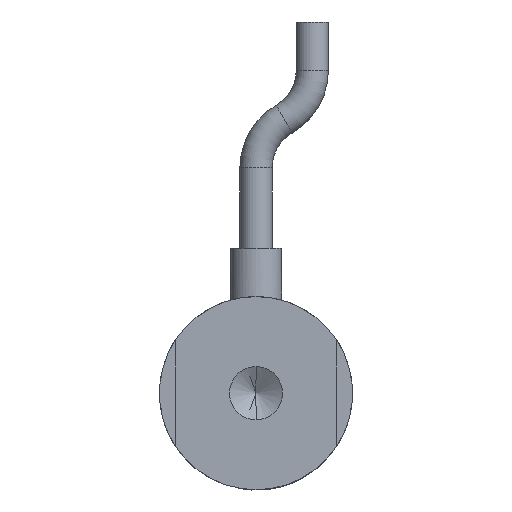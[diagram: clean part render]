
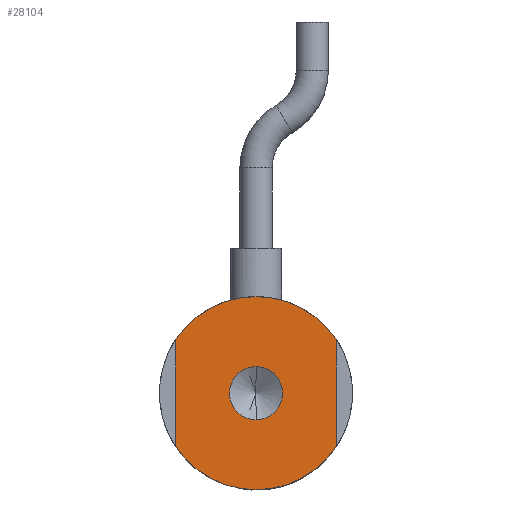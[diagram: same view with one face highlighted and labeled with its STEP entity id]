
A CAD part, front view. The second image highlights one B-rep face of the part: STEP entity #28104.
In plain terms, the highlighted planar face has unit normal (0, -1, 0).
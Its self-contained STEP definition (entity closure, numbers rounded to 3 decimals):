
#477 = VERTEX_POINT ( 'NONE', #36126 ) ;
#479 = LINE ( 'NONE', #9758, #35111 ) ;
#913 = EDGE_CURVE ( 'NONE', #36495, #1492, #2704, .T. ) ;
#1239 = ORIENTED_EDGE ( 'NONE', *, *, #25971, .F. ) ;
#1276 = DIRECTION ( 'NONE',  ( 0., 0., 1. ) ) ;
#1349 = AXIS2_PLACEMENT_3D ( 'NONE', #1442, #24998, #4890 ) ;
#1407 = CIRCLE ( 'NONE', #6826, 6. ) ;
#1442 = CARTESIAN_POINT ( 'NONE',  ( 0., 0., 0. ) ) ;
#1492 = VERTEX_POINT ( 'NONE', #41804 ) ;
#2704 = CIRCLE ( 'NONE', #8167, 1.65 ) ;
#2921 = CARTESIAN_POINT ( 'NONE',  ( 0., 0., 0. ) ) ;
#3513 = VERTEX_POINT ( 'NONE', #6872 ) ;
#4890 = DIRECTION ( 'NONE',  ( 0., 0., 1. ) ) ;
#5021 = DIRECTION ( 'NONE',  ( 0., 0., -1. ) ) ;
#5074 = DIRECTION ( 'NONE',  ( 0., -1., 0. ) ) ;
#5121 = CARTESIAN_POINT ( 'NONE',  ( 0., 0., 0. ) ) ;
#5241 = AXIS2_PLACEMENT_3D ( 'NONE', #41371, #21481, #1276 ) ;
#6044 = DIRECTION ( 'NONE',  ( 0., 0., 1. ) ) ;
#6336 = DIRECTION ( 'NONE',  ( 0., 0., -1. ) ) ;
#6826 = AXIS2_PLACEMENT_3D ( 'NONE', #17463, #40714, #20820 ) ;
#6872 = CARTESIAN_POINT ( 'NONE',  ( 0., 0., -6. ) ) ;
#8167 = AXIS2_PLACEMENT_3D ( 'NONE', #5121, #5074, #5021 ) ;
#9574 = LINE ( 'NONE', #26310, #18500 ) ;
#9639 = CIRCLE ( 'NONE', #43063, 6. ) ;
#9758 = CARTESIAN_POINT ( 'NONE',  ( 5., 0., 0. ) ) ;
#12418 = CARTESIAN_POINT ( 'NONE',  ( 0., 0., 6. ) ) ;
#13171 = DIRECTION ( 'NONE',  ( 0., 0., -1. ) ) ;
#13683 = AXIS2_PLACEMENT_3D ( 'NONE', #2921, #26447, #6336 ) ;
#14329 = CIRCLE ( 'NONE', #1349, 6. ) ;
#15969 = CARTESIAN_POINT ( 'NONE',  ( 0., 0., 0. ) ) ;
#16978 = CIRCLE ( 'NONE', #5241, 6. ) ;
#17234 = VERTEX_POINT ( 'NONE', #17997 ) ;
#17249 = CARTESIAN_POINT ( 'NONE',  ( 0., 0., 1.65 ) ) ;
#17463 = CARTESIAN_POINT ( 'NONE',  ( 0., 0., 0. ) ) ;
#17997 = CARTESIAN_POINT ( 'NONE',  ( -5., 0., -3.317 ) ) ;
#18500 = VECTOR ( 'NONE', #6044, 1000. ) ;
#18873 = EDGE_CURVE ( 'NONE', #1492, #36495, #24256, .T. ) ;
#19349 = DIRECTION ( 'NONE',  ( 0., 0., 1. ) ) ;
#20613 = CARTESIAN_POINT ( 'NONE',  ( -5., 0., 3.317 ) ) ;
#20820 = DIRECTION ( 'NONE',  ( 0., 0., 1. ) ) ;
#21481 = DIRECTION ( 'NONE',  ( 0., 1., 0. ) ) ;
#21585 = EDGE_CURVE ( 'NONE', #29154, #477, #16978, .T. ) ;
#22827 = EDGE_CURVE ( 'NONE', #23107, #3513, #14329, .T. ) ;
#22856 = AXIS2_PLACEMENT_3D ( 'NONE', #29851, #43276, #23410 ) ;
#23107 = VERTEX_POINT ( 'NONE', #43254 ) ;
#23410 = DIRECTION ( 'NONE',  ( 0., 0., 1. ) ) ;
#24065 = EDGE_CURVE ( 'NONE', #3513, #17234, #9639, .T. ) ;
#24256 = CIRCLE ( 'NONE', #13683, 1.65 ) ;
#24998 = DIRECTION ( 'NONE',  ( 0., 1., 0. ) ) ;
#25311 = FACE_OUTER_BOUND ( 'NONE', #30029, .T. ) ;
#25971 = EDGE_CURVE ( 'NONE', #36506, #29154, #1407, .T. ) ;
#26310 = CARTESIAN_POINT ( 'NONE',  ( -5., 0., 0. ) ) ;
#26447 = DIRECTION ( 'NONE',  ( 0., -1., 0. ) ) ;
#28104 = ADVANCED_FACE ( 'NONE', ( #42939, #25311 ), #39933, .F. ) ;
#29154 = VERTEX_POINT ( 'NONE', #12418 ) ;
#29233 = EDGE_CURVE ( 'NONE', #17234, #36506, #9574, .T. ) ;
#29243 = EDGE_CURVE ( 'NONE', #477, #23107, #479, .T. ) ;
#29851 = CARTESIAN_POINT ( 'NONE',  ( 0., 0., 0. ) ) ;
#30029 = EDGE_LOOP ( 'NONE', ( #35688, #37658, #40389, #41425, #43488, #1239 ) ) ;
#30778 = EDGE_LOOP ( 'NONE', ( #32057, #34621 ) ) ;
#32057 = ORIENTED_EDGE ( 'NONE', *, *, #18873, .F. ) ;
#34621 = ORIENTED_EDGE ( 'NONE', *, *, #913, .F. ) ;
#35111 = VECTOR ( 'NONE', #13171, 1000. ) ;
#35688 = ORIENTED_EDGE ( 'NONE', *, *, #29233, .F. ) ;
#36126 = CARTESIAN_POINT ( 'NONE',  ( 5., 0., 3.317 ) ) ;
#36495 = VERTEX_POINT ( 'NONE', #17249 ) ;
#36506 = VERTEX_POINT ( 'NONE', #20613 ) ;
#37658 = ORIENTED_EDGE ( 'NONE', *, *, #24065, .F. ) ;
#39196 = DIRECTION ( 'NONE',  ( 0., 1., 0. ) ) ;
#39933 = PLANE ( 'NONE',  #22856 ) ;
#40389 = ORIENTED_EDGE ( 'NONE', *, *, #22827, .F. ) ;
#40714 = DIRECTION ( 'NONE',  ( 0., 1., 0. ) ) ;
#41371 = CARTESIAN_POINT ( 'NONE',  ( 0., 0., 0. ) ) ;
#41425 = ORIENTED_EDGE ( 'NONE', *, *, #29243, .F. ) ;
#41804 = CARTESIAN_POINT ( 'NONE',  ( 0., 0., -1.65 ) ) ;
#42939 = FACE_BOUND ( 'NONE', #30778, .T. ) ;
#43063 = AXIS2_PLACEMENT_3D ( 'NONE', #15969, #39196, #19349 ) ;
#43254 = CARTESIAN_POINT ( 'NONE',  ( 5., 0., -3.317 ) ) ;
#43276 = DIRECTION ( 'NONE',  ( 0., 1., 0. ) ) ;
#43488 = ORIENTED_EDGE ( 'NONE', *, *, #21585, .F. ) ;
